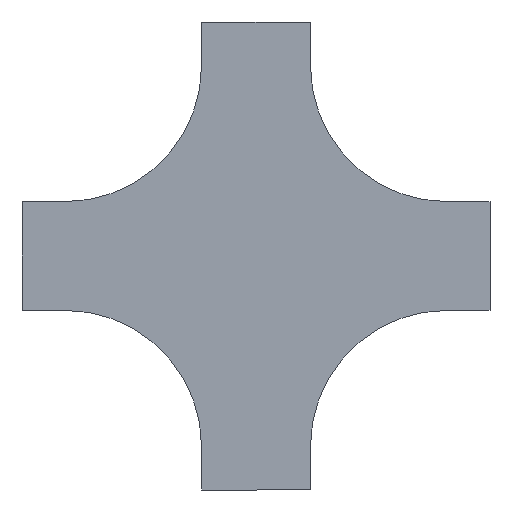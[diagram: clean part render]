
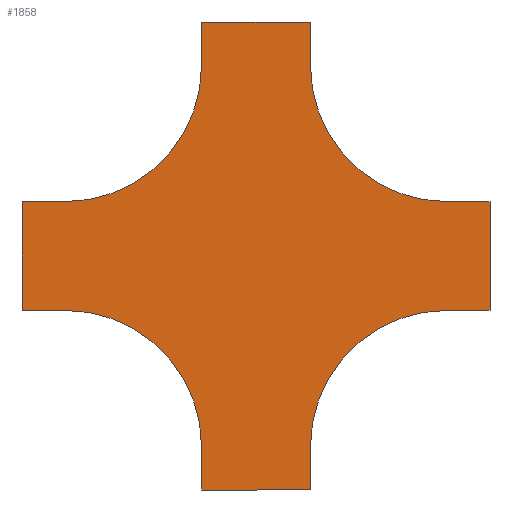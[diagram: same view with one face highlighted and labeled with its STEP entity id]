
A CAD part, front view. The second image highlights one B-rep face of the part: STEP entity #1858.
In plain terms, the highlighted planar face has unit normal (0, -1, 0).
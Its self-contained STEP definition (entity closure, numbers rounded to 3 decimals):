
#3 = DIRECTION ( 'NONE',  ( 0., 0., -1. ) ) ;
#9 = DIRECTION ( 'NONE',  ( 0., 0., -1. ) ) ;
#15 = ORIENTED_EDGE ( 'NONE', *, *, #2804, .F. ) ;
#17 = DIRECTION ( 'NONE',  ( 0., 0., -1. ) ) ;
#54 = AXIS2_PLACEMENT_3D ( 'NONE', #1785, #515, #17 ) ;
#60 = AXIS2_PLACEMENT_3D ( 'NONE', #974, #3260, #1005 ) ;
#64 = ORIENTED_EDGE ( 'NONE', *, *, #2095, .F. ) ;
#74 = DIRECTION ( 'NONE',  ( 0., 0., 1. ) ) ;
#95 = DIRECTION ( 'NONE',  ( 0., 0., 1. ) ) ;
#160 = LINE ( 'NONE', #1179, #750 ) ;
#178 = DIRECTION ( 'NONE',  ( 0., -1., 0. ) ) ;
#200 = DIRECTION ( 'NONE',  ( -1., 0., 0. ) ) ;
#203 = VECTOR ( 'NONE', #2553, 1000. ) ;
#205 = VECTOR ( 'NONE', #2400, 1000. ) ;
#255 = DIRECTION ( 'NONE',  ( 1., 0., 0. ) ) ;
#356 = ORIENTED_EDGE ( 'NONE', *, *, #1223, .F. ) ;
#385 = ORIENTED_EDGE ( 'NONE', *, *, #1326, .F. ) ;
#404 = VERTEX_POINT ( 'NONE', #1543 ) ;
#438 = DIRECTION ( 'NONE',  ( 0., 0., -1. ) ) ;
#464 = DIRECTION ( 'NONE',  ( 0., 0., 1. ) ) ;
#515 = DIRECTION ( 'NONE',  ( 0., -1., 0. ) ) ;
#523 = CARTESIAN_POINT ( 'NONE',  ( 40., 0., -125. ) ) ;
#544 = LINE ( 'NONE', #523, #203 ) ;
#560 = CARTESIAN_POINT ( 'NONE',  ( -225., 0., -350. ) ) ;
#686 = DIRECTION ( 'NONE',  ( 0., -1., 0. ) ) ;
#750 = VECTOR ( 'NONE', #929, 1000. ) ;
#761 = VERTEX_POINT ( 'NONE', #1540 ) ;
#771 = DIRECTION ( 'NONE',  ( -1., 0., 0. ) ) ;
#774 = DIRECTION ( 'NONE',  ( 0., 0., 1. ) ) ;
#813 = CARTESIAN_POINT ( 'NONE',  ( -125., 0., 40. ) ) ;
#826 = CARTESIAN_POINT ( 'NONE',  ( -225., 0., -390. ) ) ;
#827 = EDGE_CURVE ( 'NONE', #1099, #2643, #544, .T. ) ;
#916 = VERTEX_POINT ( 'NONE', #560 ) ;
#929 = DIRECTION ( 'NONE',  ( 1., 0., 0. ) ) ;
#938 = CARTESIAN_POINT ( 'NONE',  ( -225., 0., 40. ) ) ;
#943 = VERTEX_POINT ( 'NONE', #1368 ) ;
#974 = CARTESIAN_POINT ( 'NONE',  ( 0., 0., -350. ) ) ;
#1005 = DIRECTION ( 'NONE',  ( 0., 0., 1. ) ) ;
#1058 = VECTOR ( 'NONE', #771, 1000. ) ;
#1099 = VERTEX_POINT ( 'NONE', #2547 ) ;
#1122 = VECTOR ( 'NONE', #9, 1000. ) ;
#1125 = VERTEX_POINT ( 'NONE', #1519 ) ;
#1128 = ORIENTED_EDGE ( 'NONE', *, *, #2855, .F. ) ;
#1146 = ORIENTED_EDGE ( 'NONE', *, *, #3062, .F. ) ;
#1179 = CARTESIAN_POINT ( 'NONE',  ( 0., 0., -125. ) ) ;
#1185 = EDGE_CURVE ( 'NONE', #2643, #1446, #1265, .T. ) ;
#1212 = CARTESIAN_POINT ( 'NONE',  ( -350., 0., 0. ) ) ;
#1223 = EDGE_CURVE ( 'NONE', #1314, #2656, #1835, .T. ) ;
#1226 = VERTEX_POINT ( 'NONE', #1818 ) ;
#1237 = DIRECTION ( 'NONE',  ( 0., 0., -1. ) ) ;
#1252 = CARTESIAN_POINT ( 'NONE',  ( -225., 0., 40. ) ) ;
#1264 = VERTEX_POINT ( 'NONE', #1881 ) ;
#1265 = LINE ( 'NONE', #2287, #1058 ) ;
#1314 = VERTEX_POINT ( 'NONE', #3164 ) ;
#1326 = EDGE_CURVE ( 'NONE', #1125, #3024, #2196, .T. ) ;
#1340 = ORIENTED_EDGE ( 'NONE', *, *, #1185, .F. ) ;
#1356 = VERTEX_POINT ( 'NONE', #2690 ) ;
#1363 = CARTESIAN_POINT ( 'NONE',  ( -390., 0., -125. ) ) ;
#1368 = CARTESIAN_POINT ( 'NONE',  ( -225., 0., -390. ) ) ;
#1419 = AXIS2_PLACEMENT_3D ( 'NONE', #2506, #178, #1237 ) ;
#1446 = VERTEX_POINT ( 'NONE', #1456 ) ;
#1456 = CARTESIAN_POINT ( 'NONE',  ( 0., 0., -225. ) ) ;
#1479 = DIRECTION ( 'NONE',  ( -1., 0., 0. ) ) ;
#1501 = LINE ( 'NONE', #2743, #2505 ) ;
#1519 = CARTESIAN_POINT ( 'NONE',  ( -225., 0., 40. ) ) ;
#1527 = LINE ( 'NONE', #2540, #2960 ) ;
#1530 = VECTOR ( 'NONE', #74, 1000. ) ;
#1540 = CARTESIAN_POINT ( 'NONE',  ( 0., 0., -125. ) ) ;
#1543 = CARTESIAN_POINT ( 'NONE',  ( -125., 0., -350. ) ) ;
#1609 = ORIENTED_EDGE ( 'NONE', *, *, #1642, .F. ) ;
#1642 = EDGE_CURVE ( 'NONE', #761, #1099, #160, .T. ) ;
#1680 = VERTEX_POINT ( 'NONE', #3229 ) ;
#1741 = LINE ( 'NONE', #2773, #1122 ) ;
#1758 = CARTESIAN_POINT ( 'NONE',  ( -350., 0., -225. ) ) ;
#1785 = CARTESIAN_POINT ( 'NONE',  ( 0., 0., 0. ) ) ;
#1792 = LINE ( 'NONE', #1758, #3197 ) ;
#1817 = ORIENTED_EDGE ( 'NONE', *, *, #827, .F. ) ;
#1818 = CARTESIAN_POINT ( 'NONE',  ( -125., 0., -390. ) ) ;
#1829 = EDGE_CURVE ( 'NONE', #1226, #943, #1501, .T. ) ;
#1835 = LINE ( 'NONE', #1363, #2703 ) ;
#1840 = ORIENTED_EDGE ( 'NONE', *, *, #2896, .F. ) ;
#1858 = ADVANCED_FACE ( 'NONE', ( #2306 ), #2728, .T. ) ;
#1881 = CARTESIAN_POINT ( 'NONE',  ( -125., 0., 0. ) ) ;
#1916 = VECTOR ( 'NONE', #3, 1000. ) ;
#1927 = ORIENTED_EDGE ( 'NONE', *, *, #3154, .F. ) ;
#1972 = CIRCLE ( 'NONE', #2827, 125. ) ;
#2093 = LINE ( 'NONE', #826, #1530 ) ;
#2095 = EDGE_CURVE ( 'NONE', #916, #1356, #2768, .T. ) ;
#2150 = EDGE_LOOP ( 'NONE', ( #385, #1146, #2716, #1840, #356, #2305, #64, #2156, #3297, #2362, #1128, #1340, #1817, #1609, #1927, #15 ) ) ;
#2156 = ORIENTED_EDGE ( 'NONE', *, *, #3025, .F. ) ;
#2196 = LINE ( 'NONE', #938, #205 ) ;
#2226 = DIRECTION ( 'NONE',  ( 0., -1., 0. ) ) ;
#2243 = LINE ( 'NONE', #1252, #2279 ) ;
#2250 = CIRCLE ( 'NONE', #60, 125. ) ;
#2279 = VECTOR ( 'NONE', #774, 1000. ) ;
#2287 = CARTESIAN_POINT ( 'NONE',  ( 0., 0., -225. ) ) ;
#2305 = ORIENTED_EDGE ( 'NONE', *, *, #2792, .F. ) ;
#2306 = FACE_OUTER_BOUND ( 'NONE', #2150, .T. ) ;
#2332 = EDGE_CURVE ( 'NONE', #404, #1226, #2747, .T. ) ;
#2355 = EDGE_CURVE ( 'NONE', #3012, #1680, #1972, .T. ) ;
#2362 = ORIENTED_EDGE ( 'NONE', *, *, #2332, .F. ) ;
#2400 = DIRECTION ( 'NONE',  ( 1., 0., 0. ) ) ;
#2505 = VECTOR ( 'NONE', #1479, 1000. ) ;
#2506 = CARTESIAN_POINT ( 'NONE',  ( 0., 0., 0. ) ) ;
#2540 = CARTESIAN_POINT ( 'NONE',  ( -350., 0., -125. ) ) ;
#2547 = CARTESIAN_POINT ( 'NONE',  ( 40., 0., -125. ) ) ;
#2553 = DIRECTION ( 'NONE',  ( 0., 0., -1. ) ) ;
#2560 = AXIS2_PLACEMENT_3D ( 'NONE', #2722, #2226, #438 ) ;
#2643 = VERTEX_POINT ( 'NONE', #2944 ) ;
#2656 = VERTEX_POINT ( 'NONE', #2779 ) ;
#2690 = CARTESIAN_POINT ( 'NONE',  ( -350., 0., -225. ) ) ;
#2703 = VECTOR ( 'NONE', #95, 1000. ) ;
#2716 = ORIENTED_EDGE ( 'NONE', *, *, #2355, .F. ) ;
#2722 = CARTESIAN_POINT ( 'NONE',  ( -350., 0., -350. ) ) ;
#2728 = PLANE ( 'NONE',  #54 ) ;
#2743 = CARTESIAN_POINT ( 'NONE',  ( -225., 0., -390. ) ) ;
#2747 = LINE ( 'NONE', #3271, #1916 ) ;
#2768 = CIRCLE ( 'NONE', #2560, 125. ) ;
#2773 = CARTESIAN_POINT ( 'NONE',  ( -125., 0., 40. ) ) ;
#2779 = CARTESIAN_POINT ( 'NONE',  ( -390., 0., -125. ) ) ;
#2792 = EDGE_CURVE ( 'NONE', #1356, #1314, #1792, .T. ) ;
#2804 = EDGE_CURVE ( 'NONE', #3024, #1264, #1741, .T. ) ;
#2827 = AXIS2_PLACEMENT_3D ( 'NONE', #1212, #686, #464 ) ;
#2855 = EDGE_CURVE ( 'NONE', #1446, #404, #2250, .T. ) ;
#2896 = EDGE_CURVE ( 'NONE', #2656, #3012, #1527, .T. ) ;
#2944 = CARTESIAN_POINT ( 'NONE',  ( 40., 0., -225. ) ) ;
#2960 = VECTOR ( 'NONE', #255, 1000. ) ;
#2966 = CIRCLE ( 'NONE', #1419, 125. ) ;
#3012 = VERTEX_POINT ( 'NONE', #3092 ) ;
#3024 = VERTEX_POINT ( 'NONE', #813 ) ;
#3025 = EDGE_CURVE ( 'NONE', #943, #916, #2093, .T. ) ;
#3062 = EDGE_CURVE ( 'NONE', #1680, #1125, #2243, .T. ) ;
#3092 = CARTESIAN_POINT ( 'NONE',  ( -350., 0., -125. ) ) ;
#3154 = EDGE_CURVE ( 'NONE', #1264, #761, #2966, .T. ) ;
#3164 = CARTESIAN_POINT ( 'NONE',  ( -390., 0., -225. ) ) ;
#3197 = VECTOR ( 'NONE', #200, 1000. ) ;
#3229 = CARTESIAN_POINT ( 'NONE',  ( -225., 0., 0. ) ) ;
#3260 = DIRECTION ( 'NONE',  ( 0., -1., 0. ) ) ;
#3271 = CARTESIAN_POINT ( 'NONE',  ( -125., 0., -390. ) ) ;
#3297 = ORIENTED_EDGE ( 'NONE', *, *, #1829, .F. ) ;
